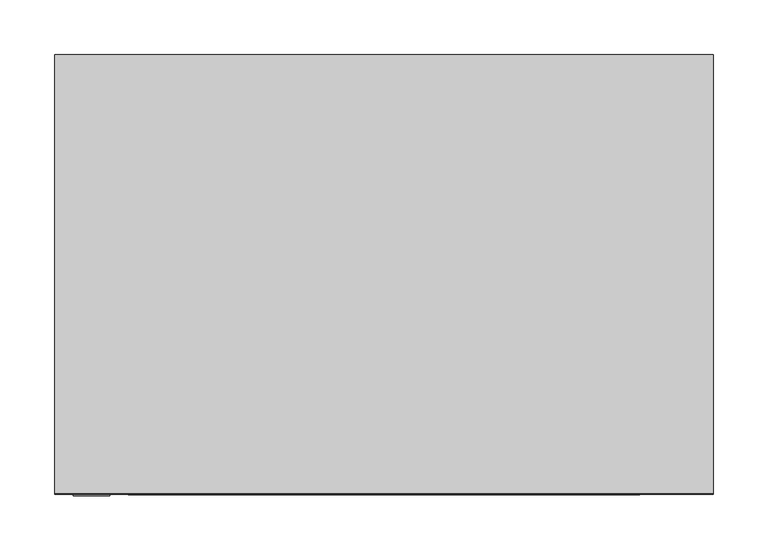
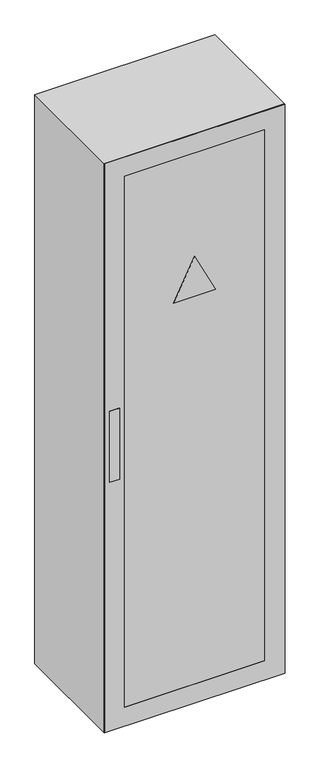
"""IFC4 building model written with IfcOpenShell, lengths in millimetres: proxy geometry, ZYR_05.02.01 Quadre Electric : QS-PK."""

from ifc_helpers import new_model, si_unit, frame, origin, origin_with_axes, place, context, project, spatial, polyline, outline, extrude, source, transform, mapped, element, save


def electrical_equipment_1b303a8c(model_context):
    return source(origin(), model_context, "Body", "SweptSolid", [
        extrude(outline(polyline([(300.0, -400.0), (-300.0, -400.0), (-300.0, 0.0), (300.0, 0.0), (300.0, -400.0)])), origin_with_axes(), (0.0, 0.0, 1.0), 2000.0),
        extrude(outline(polyline([(2000.0, 300.0), (2000.0, -300.0), (0.0, -300.0), (0.0, 300.0), (2000.0, 300.0)]), holes=[polyline([(1933.3333333, 233.3333333), (66.6666667, 233.3333333), (66.6666667, -233.3333333), (1933.3333333, -233.3333333), (1933.3333333, 233.3333333)])]), frame((0.0, -401.0, 0.0), z_axis=(0.0, 1.0, 0.0), x_axis=(0.0, 0.0, 1.0)), (0.0, 0.0, 1.0), 1.0),
        extrude(outline(polyline([(-250.0, -402.0), (-283.3333333, -402.0), (-283.3333333, -401.0), (-250.0, -401.0), (-250.0, -402.0)])), frame((0.0, 0.0, 875.0), z_axis=(0.0, 0.0, 1.0), x_axis=(1.0, 0.0, 0.0)), (0.0, 0.0, 1.0), 250.0),
        extrude(outline(polyline([(1430.0362509, -70.00125), (1430.0362509, 70.00125), (1570.038751, 0.0), (1430.0362509, -70.00125)])), frame((0.0, -401.0, 0.0), z_axis=(0.0, 1.0, 0.0), x_axis=(0.0, 0.0, 1.0)), (0.0, 0.0, 1.0), 1.0),
    ])


if __name__ == "__main__":
    model = new_model("IFC4")
    model_context = context("Model", 3, world=origin())
    ifc_project = project(units=[si_unit("LENGTHUNIT", "METRE", prefix="MILLI")], contexts=[model_context])
    site = spatial("IfcSite", under=ifc_project)
    building = spatial("IfcBuilding", under=site)
    placement = place(None, origin())
    electrical_equipment_shape = electrical_equipment_1b303a8c(model_context)
    element("IfcBuildingElementProxy", 1, Name="ZYR_05.02.01 Quadre Electric : QS-PK", ObjectType="ZYR_05.02.01 Quadre Electric : QS-PK", at=placement, inside=building, context=model_context, shape_type="MappedRepresentation", body=[
        mapped(electrical_equipment_shape, transform((0.0, 0.0, 0.0), x_axis=(1.0, 0.0, 0.0), y_axis=(0.0, 1.0, 0.0), z_axis=(0.0, 0.0, 1.0))),
    ])
    save(model, "model.ifc")
